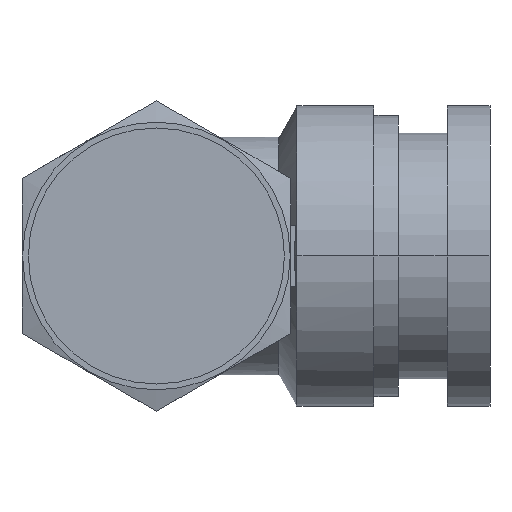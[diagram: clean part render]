
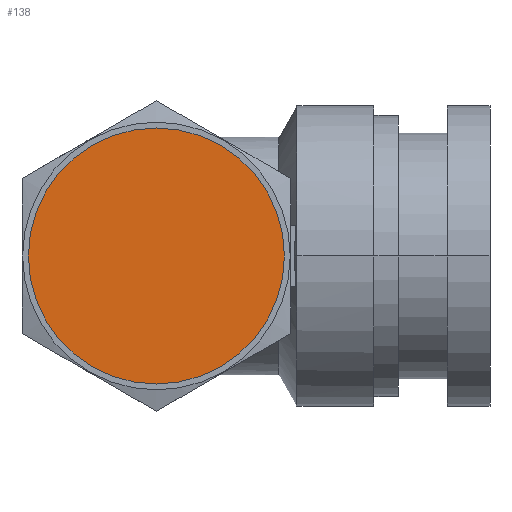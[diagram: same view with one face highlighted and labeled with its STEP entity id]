
A CAD part, front view. The second image highlights one B-rep face of the part: STEP entity #138.
In plain terms, the highlighted planar face has unit normal (0, -1, 0).
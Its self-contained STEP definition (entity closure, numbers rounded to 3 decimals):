
#138 = ADVANCED_FACE( '', ( #271 ), #272, .T. );
#271 = FACE_OUTER_BOUND( '', #404, .T. );
#272 = PLANE( '', #405 );
#404 = EDGE_LOOP( '', ( #923, #924 ) );
#405 = AXIS2_PLACEMENT_3D( '', #925, #926, #927 );
#923 = ORIENTED_EDGE( '', *, *, #931, .T. );
#924 = ORIENTED_EDGE( '', *, *, #1092, .T. );
#925 = CARTESIAN_POINT( '', ( -5.239, -7.1, 0. ) );
#926 = DIRECTION( '', ( 0., -1., 0. ) );
#927 = DIRECTION( '', ( -1., 0., 0. ) );
#931 = EDGE_CURVE( '', #1094, #1098, #1100, .T. );
#1092 = EDGE_CURVE( '', #1098, #1094, #1365, .T. );
#1094 = VERTEX_POINT( '', #1367 );
#1098 = VERTEX_POINT( '', #1372 );
#1100 = CIRCLE( '', #1375, 10.478 );
#1365 = CIRCLE( '', #2079, 10.478 );
#1367 = CARTESIAN_POINT( '', ( -10.478, -7.1, 0. ) );
#1372 = CARTESIAN_POINT( '', ( 10.478, -7.1, 0. ) );
#1375 = AXIS2_PLACEMENT_3D( '', #2085, #2086, #2087 );
#2079 = AXIS2_PLACEMENT_3D( '', #2310, #2311, #2312 );
#2085 = CARTESIAN_POINT( '', ( 0., -7.1, 0. ) );
#2086 = DIRECTION( '', ( 0., -1., 0. ) );
#2087 = DIRECTION( '', ( -1., 0., 0. ) );
#2310 = CARTESIAN_POINT( '', ( 0., -7.1, 0. ) );
#2311 = DIRECTION( '', ( 0., -1., 0. ) );
#2312 = DIRECTION( '', ( -1., 0., 0. ) );
